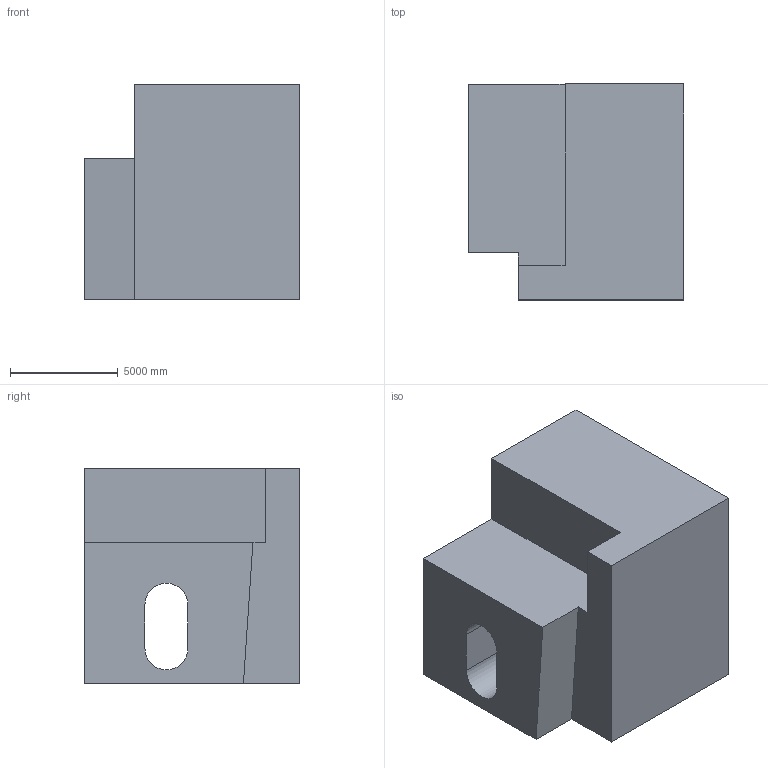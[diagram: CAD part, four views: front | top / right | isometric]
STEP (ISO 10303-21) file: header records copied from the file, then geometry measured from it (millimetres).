
FILE_DESCRIPTION (( 'STEP AP203' ), '1' );
FILE_NAME ('1265.STEP', '2022-08-18T13:28:04', ( 'user' ), ( '' ), 'SwSTEP 2.0', 'SolidWorks 2021', '' );
FILE_SCHEMA (( 'CONFIG_CONTROL_DESIGN' ));
Length unit declared in the file: centimetre
Products named in the file (1): 1265
Bounding box: 10000 x 10000 x 10000 mm (x, y, z)
Volume: 749943638690.9 mm3; surface area: 661665315.5 mm2
Topology: 1 solids, 1 shells, 16 faces, 42 edges, 28 vertices
Faces by surface type: plane 13, cylinder 3
Entity records: 573 total; most frequent: CARTESIAN_POINT 87, ORIENTED_EDGE 84, DIRECTION 82, EDGE_CURVE 42, LINE 36, VECTOR 36, VERTEX_POINT 28, AXIS2_PLACEMENT_3D 23
